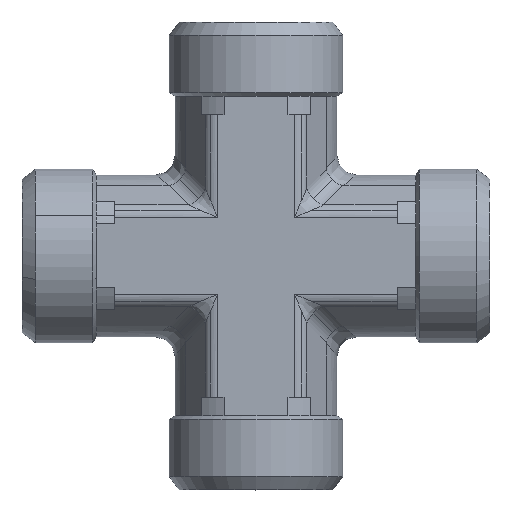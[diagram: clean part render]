
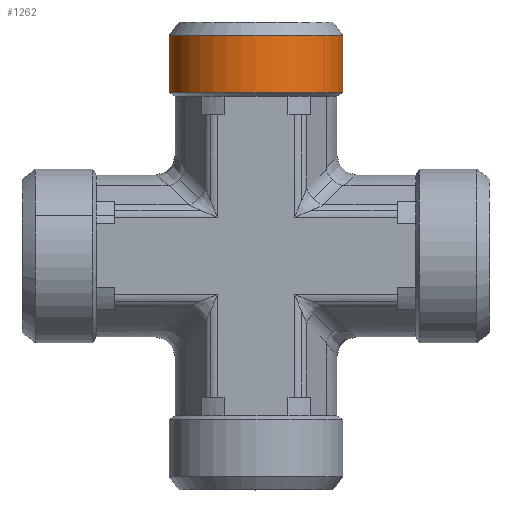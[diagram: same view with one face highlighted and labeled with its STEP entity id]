
A CAD part, top view. The second image highlights one B-rep face of the part: STEP entity #1262.
In plain terms, the highlighted cylindrical face has radius 8.925 mm (diameter 17.85 mm), a partial arc.
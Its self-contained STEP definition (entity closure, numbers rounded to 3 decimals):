
#1059=CARTESIAN_POINT('',(-27.14,0.,-8.925));
#1060=VERTEX_POINT('',#1059);
#1076=CARTESIAN_POINT('',(-27.14,0.,8.925));
#1077=VERTEX_POINT('',#1076);
#1099=CARTESIAN_POINT('',(-21.261,0.,-8.925));
#1100=VERTEX_POINT('',#1099);
#1133=CARTESIAN_POINT('',(-21.261,0.,8.925));
#1134=VERTEX_POINT('',#1133);
#1141=CARTESIAN_POINT('',(-21.261,0.,0.));
#1142=DIRECTION('',(1.0,0.0,0.0));
#1143=DIRECTION('',(0.0,0.0,-1.0));
#1144=AXIS2_PLACEMENT_3D('',#1141,#1142,#1143);
#1145=CIRCLE('',#1144,8.925);
#1146=EDGE_CURVE('',#1134,#1100,#1145,.T.);
#1235=CARTESIAN_POINT('',(-30.0,0.,0.));
#1236=DIRECTION('',(1.0,0.,0.));
#1237=DIRECTION('',(0.0,0.0,-1.0));
#1238=AXIS2_PLACEMENT_3D('',#1235,#1236,#1237);
#1239=CYLINDRICAL_SURFACE('',#1238,8.925);
#1240=CARTESIAN_POINT('',(-21.261,0.,-8.925));
#1241=DIRECTION('',(-1.0,0.0,0.0));
#1242=VECTOR('',#1241,5.879);
#1243=LINE('',#1240,#1242);
#1244=EDGE_CURVE('',#1100,#1060,#1243,.T.);
#1245=ORIENTED_EDGE('',*,*,#1244,.F.);
#1246=ORIENTED_EDGE('',*,*,#1146,.F.);
#1247=CARTESIAN_POINT('',(-27.14,0.,8.925));
#1248=DIRECTION('',(1.0,0.0,0.0));
#1249=VECTOR('',#1248,5.879);
#1250=LINE('',#1247,#1249);
#1251=EDGE_CURVE('',#1077,#1134,#1250,.T.);
#1252=ORIENTED_EDGE('',*,*,#1251,.F.);
#1253=CARTESIAN_POINT('',(-27.14,0.,0.));
#1254=DIRECTION('',(-1.0,0.0,0.0));
#1255=DIRECTION('',(0.0,0.0,-1.0));
#1256=AXIS2_PLACEMENT_3D('',#1253,#1254,#1255);
#1257=CIRCLE('',#1256,8.925);
#1258=EDGE_CURVE('',#1060,#1077,#1257,.T.);
#1259=ORIENTED_EDGE('',*,*,#1258,.F.);
#1260=EDGE_LOOP('',(#1245,#1246,#1252,#1259));
#1261=FACE_OUTER_BOUND('',#1260,.T.);
#1262=ADVANCED_FACE('',(#1261),#1239,.T.);
